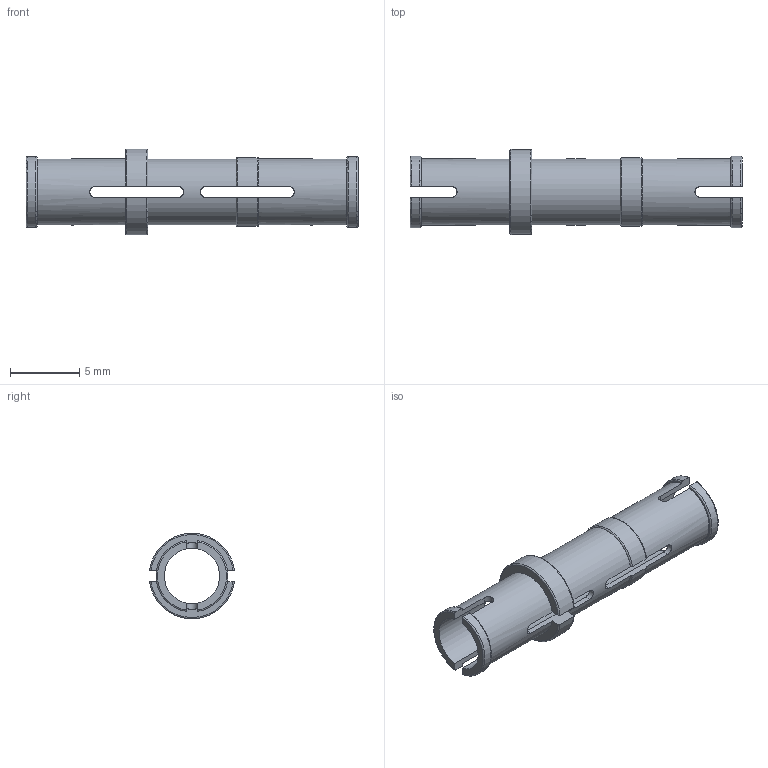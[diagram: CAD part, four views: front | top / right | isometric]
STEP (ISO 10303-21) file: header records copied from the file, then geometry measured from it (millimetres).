
FILE_DESCRIPTION(/* description */ ('Unknown'),/* implementation_level */ '2;1');
FILE_NAME(/* name */ 'Blue_4514553_MCM',/* time_stamp */ '2025-07-21T23:50:07+02:00',/* author */ ('Unknown'),/* organization */ ('Unknown'),/* preprocessor_version */ 'ST-DEVELOPER v19.4',/* originating_system */ 'Solid Edge',/* authorisation */ 'Unknown');
FILE_SCHEMA (('AUTOMOTIVE_DESIGN {1 0 10303 214 3 1 1}'));
Length unit declared in the file: millimetre
Products named in the file (1): Blue_4514553_MCM
Bounding box: 24 x 6.15 x 6.18 mm (x, y, z)
Volume: 143.9 mm3; surface area: 691.9 mm2
Topology: 1 solids, 1 shells, 68 faces, 210 edges, 138 vertices
Faces by surface type: plane 28, cylinder 24, torus 16
Full cylindrical faces by diameter (mm): 4 x1, 4.8 x3
Entity records: 2422 total; most frequent: CARTESIAN_POINT 601, ORIENTED_EDGE 408, DIRECTION 330, EDGE_CURVE 204, VERTEX_POINT 136, AXIS2_PLACEMENT_3D 113, LINE 104, VECTOR 104
